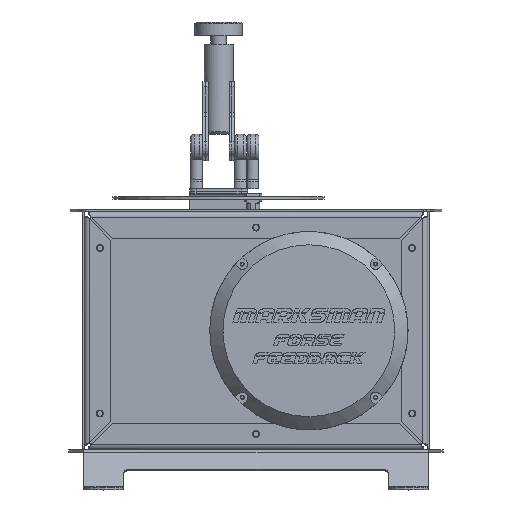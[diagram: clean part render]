
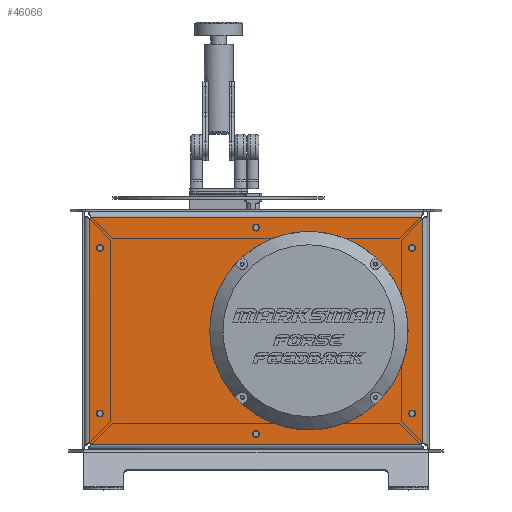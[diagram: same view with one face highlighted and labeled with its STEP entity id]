
A CAD part, left-side view. The second image highlights one B-rep face of the part: STEP entity #46066.
In plain terms, the highlighted planar face has unit normal (-1, 0, 0).
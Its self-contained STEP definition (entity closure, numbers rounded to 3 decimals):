
#2689=FACE_BOUND('',#8483,.T.);
#2690=FACE_BOUND('',#8484,.T.);
#2691=FACE_BOUND('',#8485,.T.);
#2692=FACE_BOUND('',#8486,.T.);
#2693=FACE_BOUND('',#8487,.T.);
#2694=FACE_BOUND('',#8488,.T.);
#2695=FACE_BOUND('',#8489,.T.);
#2696=FACE_BOUND('',#8490,.T.);
#2697=FACE_BOUND('',#8491,.T.);
#2698=FACE_BOUND('',#8492,.T.);
#2699=FACE_BOUND('',#8493,.T.);
#3765=CIRCLE('',#49547,2.5);
#3782=CIRCLE('',#49566,1.25);
#3783=CIRCLE('',#49568,1.25);
#3784=CIRCLE('',#49570,1.25);
#3785=CIRCLE('',#49572,1.25);
#3786=CIRCLE('',#49574,2.6);
#3787=CIRCLE('',#49576,2.6);
#3788=CIRCLE('',#49578,2.6);
#3789=CIRCLE('',#49580,2.6);
#3790=CIRCLE('',#49582,2.6);
#3791=CIRCLE('',#49584,2.6);
#3792=CIRCLE('',#49586,3.);
#3793=CIRCLE('',#49589,3.);
#3794=CIRCLE('',#49590,3.);
#3795=CIRCLE('',#49591,3.);
#3796=CIRCLE('',#49592,67.75);
#5472=FACE_OUTER_BOUND('',#8482,.T.);
#8482=EDGE_LOOP('',(#34781,#34782,#34783,#34784,#34785,#34786,#34787,#34788));
#8483=EDGE_LOOP('',(#34789,#34790));
#8484=EDGE_LOOP('',(#34791));
#8485=EDGE_LOOP('',(#34792));
#8486=EDGE_LOOP('',(#34793));
#8487=EDGE_LOOP('',(#34794));
#8488=EDGE_LOOP('',(#34795));
#8489=EDGE_LOOP('',(#34796));
#8490=EDGE_LOOP('',(#34797));
#8491=EDGE_LOOP('',(#34798));
#8492=EDGE_LOOP('',(#34799));
#8493=EDGE_LOOP('',(#34800));
#11522=LINE('',#67909,#15815);
#11524=LINE('',#67913,#15817);
#11525=LINE('',#67917,#15818);
#11526=LINE('',#67921,#15819);
#15815=VECTOR('',#55651,10.);
#15817=VECTOR('',#55655,10.);
#15818=VECTOR('',#55658,10.);
#15819=VECTOR('',#55661,10.);
#20345=VERTEX_POINT('',#67815);
#20346=VERTEX_POINT('',#67816);
#20367=VERTEX_POINT('',#67862);
#20368=VERTEX_POINT('',#67866);
#20369=VERTEX_POINT('',#67870);
#20370=VERTEX_POINT('',#67874);
#20371=VERTEX_POINT('',#67878);
#20372=VERTEX_POINT('',#67882);
#20373=VERTEX_POINT('',#67886);
#20374=VERTEX_POINT('',#67890);
#20375=VERTEX_POINT('',#67894);
#20376=VERTEX_POINT('',#67898);
#20377=VERTEX_POINT('',#67902);
#20378=VERTEX_POINT('',#67904);
#20379=VERTEX_POINT('',#67908);
#20380=VERTEX_POINT('',#67912);
#20381=VERTEX_POINT('',#67914);
#20382=VERTEX_POINT('',#67916);
#20383=VERTEX_POINT('',#67918);
#20384=VERTEX_POINT('',#67920);
#25634=EDGE_CURVE('',#20345,#20346,#3765,.T.);
#25658=EDGE_CURVE('',#20367,#20367,#3782,.T.);
#25660=EDGE_CURVE('',#20368,#20368,#3783,.T.);
#25662=EDGE_CURVE('',#20369,#20369,#3784,.T.);
#25664=EDGE_CURVE('',#20370,#20370,#3785,.T.);
#25666=EDGE_CURVE('',#20371,#20371,#3786,.F.);
#25668=EDGE_CURVE('',#20372,#20372,#3787,.F.);
#25670=EDGE_CURVE('',#20373,#20373,#3788,.F.);
#25672=EDGE_CURVE('',#20374,#20374,#3789,.F.);
#25674=EDGE_CURVE('',#20375,#20375,#3790,.F.);
#25676=EDGE_CURVE('',#20376,#20376,#3791,.F.);
#25678=EDGE_CURVE('',#20377,#20378,#3792,.T.);
#25680=EDGE_CURVE('',#20379,#20378,#11522,.T.);
#25682=EDGE_CURVE('',#20377,#20380,#11524,.T.);
#25683=EDGE_CURVE('',#20381,#20380,#3793,.T.);
#25684=EDGE_CURVE('',#20381,#20382,#11525,.T.);
#25685=EDGE_CURVE('',#20383,#20382,#3794,.T.);
#25686=EDGE_CURVE('',#20383,#20384,#11526,.T.);
#25687=EDGE_CURVE('',#20379,#20384,#3795,.T.);
#25688=EDGE_CURVE('',#20345,#20346,#3796,.T.);
#34781=ORIENTED_EDGE('',*,*,#25678,.F.);
#34782=ORIENTED_EDGE('',*,*,#25682,.T.);
#34783=ORIENTED_EDGE('',*,*,#25683,.F.);
#34784=ORIENTED_EDGE('',*,*,#25684,.T.);
#34785=ORIENTED_EDGE('',*,*,#25685,.F.);
#34786=ORIENTED_EDGE('',*,*,#25686,.T.);
#34787=ORIENTED_EDGE('',*,*,#25687,.F.);
#34788=ORIENTED_EDGE('',*,*,#25680,.T.);
#34789=ORIENTED_EDGE('',*,*,#25634,.T.);
#34790=ORIENTED_EDGE('',*,*,#25688,.F.);
#34791=ORIENTED_EDGE('',*,*,#25658,.T.);
#34792=ORIENTED_EDGE('',*,*,#25660,.T.);
#34793=ORIENTED_EDGE('',*,*,#25662,.T.);
#34794=ORIENTED_EDGE('',*,*,#25664,.T.);
#34795=ORIENTED_EDGE('',*,*,#25666,.T.);
#34796=ORIENTED_EDGE('',*,*,#25668,.T.);
#34797=ORIENTED_EDGE('',*,*,#25670,.T.);
#34798=ORIENTED_EDGE('',*,*,#25672,.T.);
#34799=ORIENTED_EDGE('',*,*,#25674,.T.);
#34800=ORIENTED_EDGE('',*,*,#25676,.T.);
#44218=PLANE('',#49588);
#46066=ADVANCED_FACE('',(#5472,#2689,#2690,#2691,#2692,#2693,#2694,#2695,
#2696,#2697,#2698,#2699),#44218,.F.);
#49547=AXIS2_PLACEMENT_3D('',#67817,#55551,#55552);
#49566=AXIS2_PLACEMENT_3D('',#67864,#55596,#55597);
#49568=AXIS2_PLACEMENT_3D('',#67868,#55601,#55602);
#49570=AXIS2_PLACEMENT_3D('',#67872,#55606,#55607);
#49572=AXIS2_PLACEMENT_3D('',#67876,#55611,#55612);
#49574=AXIS2_PLACEMENT_3D('',#67880,#55616,#55617);
#49576=AXIS2_PLACEMENT_3D('',#67884,#55621,#55622);
#49578=AXIS2_PLACEMENT_3D('',#67888,#55626,#55627);
#49580=AXIS2_PLACEMENT_3D('',#67892,#55631,#55632);
#49582=AXIS2_PLACEMENT_3D('',#67896,#55636,#55637);
#49584=AXIS2_PLACEMENT_3D('',#67900,#55641,#55642);
#49586=AXIS2_PLACEMENT_3D('',#67905,#55646,#55647);
#49588=AXIS2_PLACEMENT_3D('',#67911,#55653,#55654);
#49589=AXIS2_PLACEMENT_3D('',#67915,#55656,#55657);
#49590=AXIS2_PLACEMENT_3D('',#67919,#55659,#55660);
#49591=AXIS2_PLACEMENT_3D('',#67922,#55662,#55663);
#49592=AXIS2_PLACEMENT_3D('',#67923,#55664,#55665);
#55551=DIRECTION('center_axis',(1.,0.,0.));
#55552=DIRECTION('ref_axis',(0.,1.,0.));
#55596=DIRECTION('center_axis',(1.,0.,0.));
#55597=DIRECTION('ref_axis',(0.,1.,0.));
#55601=DIRECTION('center_axis',(1.,0.,0.));
#55602=DIRECTION('ref_axis',(0.,1.,0.));
#55606=DIRECTION('center_axis',(1.,0.,0.));
#55607=DIRECTION('ref_axis',(0.,1.,0.));
#55611=DIRECTION('center_axis',(1.,0.,0.));
#55612=DIRECTION('ref_axis',(0.,1.,0.));
#55616=DIRECTION('center_axis',(-1.,0.,0.));
#55617=DIRECTION('ref_axis',(0.,-1.,0.));
#55621=DIRECTION('center_axis',(-1.,0.,0.));
#55622=DIRECTION('ref_axis',(0.,-1.,0.));
#55626=DIRECTION('center_axis',(-1.,0.,0.));
#55627=DIRECTION('ref_axis',(0.,-1.,0.));
#55631=DIRECTION('center_axis',(-1.,0.,0.));
#55632=DIRECTION('ref_axis',(0.,-1.,0.));
#55636=DIRECTION('center_axis',(-1.,0.,0.));
#55637=DIRECTION('ref_axis',(0.,-1.,0.));
#55641=DIRECTION('center_axis',(-1.,0.,0.));
#55642=DIRECTION('ref_axis',(0.,-1.,0.));
#55646=DIRECTION('center_axis',(1.,0.,0.));
#55647=DIRECTION('ref_axis',(0.,-0.707,-0.707));
#55651=DIRECTION('',(0.,-1.,0.));
#55653=DIRECTION('center_axis',(1.,0.,0.));
#55654=DIRECTION('ref_axis',(0.,1.,0.));
#55655=DIRECTION('',(0.,0.,1.));
#55656=DIRECTION('center_axis',(1.,0.,0.));
#55657=DIRECTION('ref_axis',(0.,-0.707,0.707));
#55658=DIRECTION('',(0.,1.,0.));
#55659=DIRECTION('center_axis',(1.,0.,0.));
#55660=DIRECTION('ref_axis',(0.,0.707,0.707));
#55661=DIRECTION('',(0.,0.,-1.));
#55662=DIRECTION('center_axis',(1.,0.,0.));
#55663=DIRECTION('ref_axis',(0.,0.707,-0.707));
#55664=DIRECTION('center_axis',(-1.,0.,0.));
#55665=DIRECTION('ref_axis',(0.,1.,0.));
#67815=CARTESIAN_POINT('',(-154.,-2.5,-67.704));
#67816=CARTESIAN_POINT('',(-154.,2.5,-67.704));
#67817=CARTESIAN_POINT('Origin',(-154.,0.,-67.75));
#67862=CARTESIAN_POINT('',(-154.,49.131,50.381));
#67864=CARTESIAN_POINT('Origin',(-154.,50.381,50.381));
#67866=CARTESIAN_POINT('',(-154.,-51.631,-50.381));
#67868=CARTESIAN_POINT('Origin',(-154.,-50.381,-50.381));
#67870=CARTESIAN_POINT('',(-154.,-51.631,50.381));
#67872=CARTESIAN_POINT('Origin',(-154.,-50.381,50.381));
#67874=CARTESIAN_POINT('',(-154.,49.131,-50.381));
#67876=CARTESIAN_POINT('Origin',(-154.,50.381,-50.381));
#67878=CARTESIAN_POINT('',(-154.,42.6,-78.));
#67880=CARTESIAN_POINT('Origin',(-154.,40.,-78.));
#67882=CARTESIAN_POINT('',(-154.,42.6,78.));
#67884=CARTESIAN_POINT('Origin',(-154.,40.,78.));
#67886=CARTESIAN_POINT('',(-154.,-75.4,-62.586));
#67888=CARTESIAN_POINT('Origin',(-154.,-78.,-62.586));
#67890=CARTESIAN_POINT('',(-154.,160.6,-62.586));
#67892=CARTESIAN_POINT('Origin',(-154.,158.,-62.586));
#67894=CARTESIAN_POINT('',(-154.,160.6,62.586));
#67896=CARTESIAN_POINT('Origin',(-154.,158.,62.586));
#67898=CARTESIAN_POINT('',(-154.,-75.4,62.586));
#67900=CARTESIAN_POINT('Origin',(-154.,-78.,62.586));
#67902=CARTESIAN_POINT('',(-154.,-86.033,-83.));
#67904=CARTESIAN_POINT('',(-154.,-83.033,-86.));
#67905=CARTESIAN_POINT('Origin',(-154.,-83.033,-83.));
#67908=CARTESIAN_POINT('',(-154.,163.,-86.));
#67909=CARTESIAN_POINT('',(-154.,166.,-86.));
#67911=CARTESIAN_POINT('Origin',(-154.,39.983,0.));
#67912=CARTESIAN_POINT('',(-154.,-86.033,83.));
#67913=CARTESIAN_POINT('',(-154.,-86.033,-86.));
#67914=CARTESIAN_POINT('',(-154.,-83.033,86.));
#67915=CARTESIAN_POINT('Origin',(-154.,-83.033,83.));
#67916=CARTESIAN_POINT('',(-154.,163.,86.));
#67917=CARTESIAN_POINT('',(-154.,-86.033,86.));
#67918=CARTESIAN_POINT('',(-154.,166.,83.));
#67919=CARTESIAN_POINT('Origin',(-154.,163.,83.));
#67920=CARTESIAN_POINT('',(-154.,166.,-83.));
#67921=CARTESIAN_POINT('',(-154.,166.,86.));
#67922=CARTESIAN_POINT('Origin',(-154.,163.,-83.));
#67923=CARTESIAN_POINT('Origin',(-154.,0.,0.));
